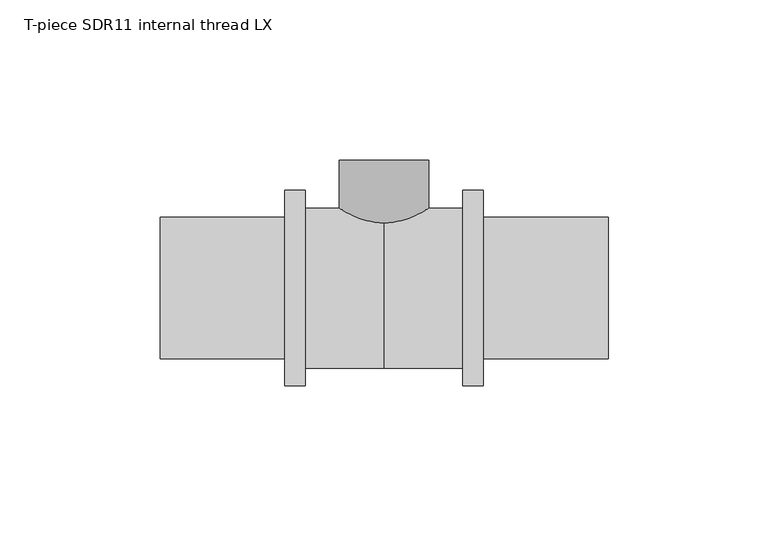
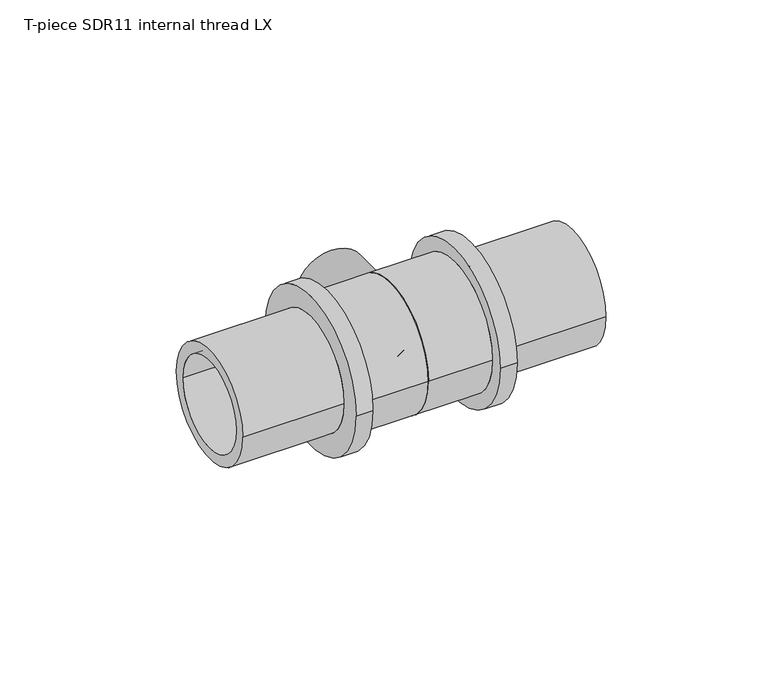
"""IFC4 building model written with IfcOpenShell, lengths in millimetres: pipe fitting geometry, T-piece SDR11 internal thread LX : T-piece LX SDR11 internal LX."""

import ifcopenshell
import ifcopenshell.guid

model = None  # the IFC model being written
_history = None  # IfcOwnerHistory: only IFC2X3 demands one
_inside = {}  # id of a spatial element -> (the spatial element, [elements in it])
_under = {}  # id of a project, library or spatial element -> (it, [spatial elements below it])
_declared = {}  # id of a project -> (the project, [libraries it declares])
_typed = {}  # id of a type object -> (the type object, [elements of that type])
_made_of = {}  # id of a material, layer set ... -> (it, [elements and type objects made of it])


def new_model(schema):
    """Start an empty IFC model of exactly this schema.

    Asked for "IFC4X3", IfcOpenShell would pick the latest addendum, in which some entities
    have other attributes; the version numbers below select the first issue.
    IFC2X3 requires an IfcOwnerHistory on every rooted entity: one is made here for all.
    """
    global model, _history
    if schema == "IFC4X3":
        model = ifcopenshell.file(schema_version=(4, 3, 0, 0))
    else:
        model = ifcopenshell.file(schema=schema)
    _inside.clear()
    _under.clear()
    _declared.clear()
    _typed.clear()
    _made_of.clear()
    _history = None
    if model.schema == "IFC2X3":
        org = make("IfcOrganization", Name="unknown")
        user = make(
            "IfcPersonAndOrganization",
            ThePerson=make("IfcPerson", FamilyName="unknown"),
            TheOrganization=org,
        )
        app = make(
            "IfcApplication",
            ApplicationDeveloper=org,
            Version="unknown",
            ApplicationFullName="unknown",
            ApplicationIdentifier="unknown",
        )
        _history = make(
            "IfcOwnerHistory",
            OwningUser=user,
            OwningApplication=app,
            ChangeAction="ADDED",
            CreationDate=0,
        )
    return model


def make(cls, **values):
    """One entity of the class cls with the attributes given. An attribute that is None is left unset."""
    return model.create_entity(
        cls, **{name: value for name, value in values.items() if value is not None}
    )


def rooted(cls, **values):
    """An entity with a GlobalId (a new one), such as an element, a storey or a relation."""
    return make(cls, GlobalId=ifcopenshell.guid.new(), OwnerHistory=_history, **values)


def si_unit(unit_type, name, prefix=None):
    """IfcSIUnit, for example si_unit("LENGTHUNIT", "METRE", prefix="MILLI")."""
    return make("IfcSIUnit", UnitType=unit_type, Prefix=prefix, Name=name)


def assignment(units):
    """IfcUnitAssignment: the units of a project."""
    return None if units is None else make("IfcUnitAssignment", Units=units)


def point(xyz):
    """IfcCartesianPoint."""
    return None if xyz is None else make("IfcCartesianPoint", Coordinates=xyz)


def direction(xyz):
    """IfcDirection."""
    return None if xyz is None else make("IfcDirection", DirectionRatios=xyz)


def frame(location, z_axis=None, x_axis=None):
    """IfcAxis2Placement3D, a coordinate frame: its origin and axes. An axis left out is left unset."""
    return make(
        "IfcAxis2Placement3D",
        Location=point(location),
        Axis=direction(z_axis),
        RefDirection=direction(x_axis),
    )


def origin():
    """The frame at (0, 0, 0) with its axes left unset."""
    return frame((0.0, 0.0, 0.0))


def place(relative_to, where):
    """IfcLocalPlacement: puts the frame where relative to a parent placement (None: the world)."""
    return make(
        "IfcLocalPlacement", PlacementRelTo=relative_to, RelativePlacement=where
    )


def context(
    kind, dimensions, precision=None, world=None, true_north=None, identifier=None
):
    """IfcGeometricRepresentationContext, for example the 3D "Model" context."""
    return make(
        "IfcGeometricRepresentationContext",
        ContextIdentifier=identifier,
        ContextType=kind,
        CoordinateSpaceDimension=dimensions,
        Precision=precision,
        WorldCoordinateSystem=world,
        TrueNorth=true_north,
    )


def project(units=None, contexts=None):
    """IfcProject with its units and contexts."""
    return rooted(
        "IfcProject",
        Name="project",
        RepresentationContexts=contexts,
        UnitsInContext=assignment(units),
    )


def spatial(cls, under=None, at=None, **own):
    """A site, building, storey or space (cls), placed at a placement, below another one or the project."""
    s = rooted(cls, ObjectPlacement=at, **own)
    if under is not None:
        _under.setdefault(under.id(), (under, []))[1].append(s)
    return s


def polyline(points):
    """IfcPolyline through the points."""
    return make("IfcPolyline", Points=[point(p) for p in points])


def circle_curve(where, radius):
    """IfcCircle in the frame where."""
    return make("IfcCircle", Position=where, Radius=radius)


def ellipse_curve(where, semi_axis1, semi_axis2):
    """IfcEllipse in the frame where."""
    return make(
        "IfcEllipse", Position=where, SemiAxis1=semi_axis1, SemiAxis2=semi_axis2
    )


def trimmed(basis, trim1, trim2, sense, master):
    """IfcTrimmedCurve: the piece of a basis curve between two trims."""
    return make(
        "IfcTrimmedCurve",
        BasisCurve=basis,
        Trim1=trim1,
        Trim2=trim2,
        SenseAgreement=sense,
        MasterRepresentation=master,
    )


def shape(context_of_items, identifier, shape_type, items):
    """IfcShapeRepresentation: the items that make up one representation, for example the "Body"."""
    return make(
        "IfcShapeRepresentation",
        ContextOfItems=context_of_items,
        RepresentationIdentifier=identifier,
        RepresentationType=shape_type,
        Items=items,
    )


def source(mapping_origin, context_of_items, identifier, shape_type, items):
    """IfcRepresentationMap: a shape defined once, which mapped items show again and again."""
    return make(
        "IfcRepresentationMap",
        MappingOrigin=mapping_origin,
        MappedRepresentation=shape(context_of_items, identifier, shape_type, items),
    )


def transform(
    local_origin,
    x_axis=None,
    y_axis=None,
    z_axis=None,
    scale=None,
    scale2=None,
    scale3=None,
    uniform=True,
):
    """IfcCartesianTransformationOperator3D, or its non-uniform kind. x_axis, y_axis, z_axis: its Axis1, 2, 3."""
    if uniform:
        return make(
            "IfcCartesianTransformationOperator3D",
            Axis1=direction(x_axis),
            Axis2=direction(y_axis),
            LocalOrigin=point(local_origin),
            Scale=scale,
            Axis3=direction(z_axis),
        )
    return make(
        "IfcCartesianTransformationOperator3DnonUniform",
        Axis1=direction(x_axis),
        Axis2=direction(y_axis),
        LocalOrigin=point(local_origin),
        Scale=scale,
        Axis3=direction(z_axis),
        Scale2=scale2,
        Scale3=scale3,
    )


def mapped(mapping_source, mapping_target):
    """IfcMappedItem: shows the shape of a source again, moved by a transform."""
    return make(
        "IfcMappedItem", MappingSource=mapping_source, MappingTarget=mapping_target
    )


def made_of(thing, what):
    """Note that an element or type object is made of a material, layer set ...; save() writes the relation."""
    if what is not None:
        _made_of.setdefault(what.id(), (what, []))[1].append(thing)
    return thing


def element(
    cls,
    number,
    at=None,
    inside=None,
    cuts=None,
    type_object=None,
    material=None,
    context=None,
    identifier="Body",
    shape_type=None,
    held_by="IfcProductDefinitionShape",
    body=None,
    shapes=None,
    **own,
):
    """One element of the class cls, such as IfcWall. Its Tag is "e" and its number.

    at: its placement. inside: the storey or other place that contains it. cuts: it is an
    opening in that element (IfcRelVoidsElement). A single representation is given by context,
    identifier, shape_type and body (its items); several are given by shapes. held_by: the class
    of the entity that holds the representations. save() writes the other relations.
    """
    e = rooted(cls, Tag="e%d" % number, ObjectPlacement=at, **own)
    if body is not None:
        shapes = [shape(context, identifier, shape_type, body)]
    if shapes is not None:
        e.Representation = make(held_by, Representations=shapes)
    if inside is not None:
        _inside.setdefault(inside.id(), (inside, []))[1].append(e)
    if cuts is not None:
        rooted(
            "IfcRelVoidsElement", RelatingBuildingElement=cuts, RelatedOpeningElement=e
        )
    if type_object is not None:
        _typed.setdefault(type_object.id(), (type_object, []))[1].append(e)
    return made_of(e, material)


def aggregate(whole, parts):
    """IfcRelAggregates: a whole, such as a stair, and the parts it consists of."""
    return rooted("IfcRelAggregates", RelatingObject=whole, RelatedObjects=parts)


def save(model, path):
    """Write the relations noted so far, then the file.

    IfcRelAggregates (storeys below a building ...), IfcRelContainedInSpatialStructure (elements
    in a storey), IfcRelDefinesByType, IfcRelAssociatesMaterial and IfcRelDeclares: one each for
    every whole, place, type object, material and project.
    """
    for whole, parts in _under.values():
        aggregate(whole, parts)
    for where, things in _inside.values():
        rooted(
            "IfcRelContainedInSpatialStructure",
            RelatedElements=things,
            RelatingStructure=where,
        )
    for kind, things in _typed.values():
        rooted("IfcRelDefinesByType", RelatedObjects=things, RelatingType=kind)
    for what, things in _made_of.values():
        rooted("IfcRelAssociatesMaterial", RelatedObjects=things, RelatingMaterial=what)
    for by, libraries in _declared.values():
        rooted("IfcRelDeclares", RelatingContext=by, RelatedDefinitions=libraries)
    model.write(path)


def plane_surface(at):
    """IfcPlane: the flat surface through the origin of the frame at, square to its z axis."""
    return make("IfcPlane", Position=at)


def cylinder_surface(at, radius):
    """IfcCylindricalSurface: all points at the distance radius from the z axis of the frame at."""
    return make("IfcCylindricalSurface", Position=at, Radius=radius)


def revolved_surface(curve, axis_point, axis_direction):
    """IfcSurfaceOfRevolution: the curve turned about the line through axis_point along axis_direction."""
    return make(
        "IfcSurfaceOfRevolution",
        SweptCurve=make("IfcArbitraryOpenProfileDef", ProfileType="CURVE", Curve=curve),
        AxisPosition=make("IfcAxis1Placement", Location=point(axis_point), Axis=direction(axis_direction)),
    )


def advanced_brep(points, edges, surfaces, faces):
    """IfcAdvancedBrep: a solid bounded by faces that lie on surfaces and meet in shared edges.

    An edge is (start, end): straight between two places in points (the first is 0);
    or (start, end, curve); or (start, end, curve, False) where it runs against its curve.
    A face is (place in surfaces, loops), or (place, loops, False) where it looks against
    its surface's normal. A loop lists edges by number (the first is 1), with a minus sign
    where the edge is run from its end to its start. The first loop is the outer one.
    """
    corners = [point(p) for p in points]
    vertices = [make("IfcVertexPoint", VertexGeometry=c) for c in corners]
    made = []
    for start, end, *more in edges:
        made.append(
            make(
                "IfcEdgeCurve",
                EdgeStart=vertices[start],
                EdgeEnd=vertices[end],
                EdgeGeometry=more[0] if more else make("IfcPolyline", Points=[corners[start], corners[end]]),
                SameSense=more[1] if len(more) > 1 else True,
            )
        )
    hull = []
    for where, loops, *sense in faces:
        bounds = []
        for j, loop in enumerate(loops):
            ring = [make("IfcOrientedEdge", EdgeElement=made[abs(k) - 1], Orientation=k > 0) for k in loop]
            bounds.append(
                make(
                    "IfcFaceOuterBound" if j == 0 else "IfcFaceBound",
                    Bound=make("IfcEdgeLoop", EdgeList=ring),
                    Orientation=True,
                )
            )
        hull.append(make("IfcAdvancedFace", Bounds=bounds, FaceSurface=surfaces[where], SameSense=sense[0] if sense else True))
    return make("IfcAdvancedBrep", Outer=make("IfcClosedShell", CfsFaces=hull))


def t_piece_sdr11_internal_thread_lx_bc42c6c6(model_context):
    return source(origin(), model_context, "Body", "AdvancedBrep", [
        advanced_brep(
        [(9.85, 9.35, 0.0), (-9.85, 9.35, 0.0), (-9.85, 40.0, 0.0), (9.85, 40.0, 0.0), (0.5, 0.0, 0.0), (-0.5, 0.0, 0.0), (13.2683856, 6.8993993, 0.0), (-13.2683856, 6.8993993, 0.0), (-6.3689863, 0.0, 0.0), (6.3689863, 0.0, 0.0), (14.0, 8.6656727, 0.0), (-14.0, 8.6656727, 0.0), (14.0, 40.0, 0.0), (-14.0, 40.0, 0.0)],
        [
            (0, 1, circle_curve(frame((0.0, 9.35, 0.0), z_axis=(0.0, -1.0, 0.0), x_axis=(-1.0, 0.0, 0.0)), 9.85)),
            (1, 2),
            (2, 3, circle_curve(frame((0.0, 40.0, 0.0), z_axis=(0.0, 1.0, 0.0), x_axis=(-1.0, 0.0, 0.0)), 9.85)),
            (3, 0),
            (4, 5, circle_curve(frame((0.0, 0.0, 0.0), z_axis=(0.0, -1.0, 0.0), x_axis=(-1.0, 0.0, 0.0)), 0.5)),
            (5, 1),
            (0, 4),
            (6, 7, circle_curve(frame((0.0, 6.8993993, 0.0), z_axis=(0.0, -1.0, 0.0), x_axis=(-1.0, 0.0, 0.0)), 13.2683856)),
            (7, 8),
            (8, 9, circle_curve(frame((0.0, 0.0, 0.0), z_axis=(0.0, 1.0, 0.0), x_axis=(-1.0, 0.0, 0.0)), 6.3689863)),
            (9, 6),
            (10, 11, circle_curve(frame((0.0, 8.6656727, 0.0), z_axis=(0.0, -1.0, 0.0), x_axis=(-1.0, 0.0, 0.0)), 14.0)),
            (11, 7, circle_curve(frame((-9.85, 9.35, 0.0), z_axis=(0.0, 0.0, 1.0), x_axis=(0.0, 1.0, 0.0)), 4.2060437)),
            (6, 10, circle_curve(frame((9.85, 9.35, 0.0), z_axis=(0.0, 0.0, 1.0), x_axis=(0.0, 1.0, 0.0)), 4.2060437)),
            (12, 13, circle_curve(frame((0.0, 40.0, 0.0), z_axis=(0.0, -1.0, 0.0), x_axis=(-1.0, 0.0, 0.0)), 14.0)),
            (13, 11),
            (10, 12),
            (12, 13, circle_curve(frame((0.0, 40.0, 0.0), z_axis=(0.0, 1.0, 0.0), x_axis=(1.0, 0.0, 0.0)), 14.0)),
            (2, 3, circle_curve(frame((0.0, 40.0, 0.0), z_axis=(0.0, -1.0, 0.0), x_axis=(1.0, 0.0, 0.0)), 9.85)),
            (1, 0, circle_curve(frame((0.0, 9.35, 0.0), z_axis=(0.0, -1.0, 0.0), x_axis=(1.0, 0.0, 0.0)), 9.85)),
            (5, 4, circle_curve(frame((0.0, 0.0, 0.0), z_axis=(0.0, -1.0, 0.0), x_axis=(1.0, 0.0, 0.0)), 0.5)),
            (8, 9, circle_curve(frame((0.0, 0.0, 0.0), z_axis=(0.0, -1.0, 0.0), x_axis=(1.0, 0.0, 0.0)), 6.3689863)),
            (7, 6, circle_curve(frame((0.0, 6.8993993, 0.0), z_axis=(0.0, -1.0, 0.0), x_axis=(1.0, 0.0, 0.0)), 13.2683856)),
            (11, 10, circle_curve(frame((0.0, 8.6656727, 0.0), z_axis=(0.0, -1.0, 0.0), x_axis=(1.0, 0.0, 0.0)), 14.0)),
        ],
        [
            revolved_surface(polyline([(-9.85, 40.0, 0.0), (-9.85, 9.35, 0.0)]), (0.0, 0.0, 0.0), (0.0, 1.0, 0.0)),
            revolved_surface(polyline([(-9.85, 9.35, 0.0), (-0.5, 0.0, 0.0)]), (0.0, 0.0, 0.0), (0.0, 1.0, 0.0)),
            revolved_surface(polyline([(-6.3689863, 0.0, 0.0), (-13.2683856, 6.8993993, 0.0)]), (0.0, 0.0, 0.0), (0.0, 1.0, 0.0)),
            revolved_surface(trimmed(ellipse_curve(frame((-9.85, 9.35, 0.0), z_axis=(0.0, 0.0, -1.0), x_axis=(0.0, 1.0, 0.0)), 4.2060437, 4.2060437), [point((-13.2683856, 6.8993993, 0.0))], [point((-14.0, 8.6656727, 0.0))], True, "CARTESIAN"), (0.0, 0.0, 0.0), (0.0, 1.0, 0.0)),
            cylinder_surface(frame((0.0, 0.0, 0.0), z_axis=(0.0, 1.0, 0.0), x_axis=(-1.0, 0.0, 0.0)), 14.0),
            plane_surface(frame((0.0, 40.0, 0.0), z_axis=(0.0, 1.0, 0.0), x_axis=(1.0, 0.0, 0.0))),
            revolved_surface(polyline([(9.85, 40.0, 0.0), (9.85, 9.35, 0.0)]), (0.0, 0.0, 0.0), (0.0, 1.0, 0.0)),
            revolved_surface(polyline([(9.85, 9.35, 0.0), (0.5, 0.0, 0.0)]), (0.0, 0.0, 0.0), (0.0, 1.0, 0.0)),
            plane_surface(frame((0.0, 0.0, 0.0), z_axis=(0.0, -1.0, 0.0), x_axis=(1.0, 0.0, 0.0))),
            revolved_surface(polyline([(6.3689863, 0.0, 0.0), (13.2683856, 6.8993993, 0.0)]), (0.0, 0.0, 0.0), (0.0, 1.0, 0.0)),
            revolved_surface(trimmed(ellipse_curve(frame((9.85, 9.35, 0.0), z_axis=(0.0, 0.0, 1.0), x_axis=(0.0, 1.0, 0.0)), 4.2060437, 4.2060437), [point((13.2683856, 6.8993993, 0.0))], [point((14.0, 8.6656727, 0.0))], True, "CARTESIAN"), (0.0, 0.0, 0.0), (0.0, 1.0, 0.0)),
            cylinder_surface(frame((0.0, 0.0, 0.0), z_axis=(0.0, 1.0, 0.0), x_axis=(1.0, 0.0, 0.0)), 14.0),
        ],
        [
            (0, [[1, 2, 3, 4]]),
            (1, [[5, 6, -1, 7]]),
            (2, [[8, 9, 10, 11]]),
            (3, [[12, 13, -8, 14]]),
            (4, [[15, 16, -12, 17]]),
            (5, [[18, -15], [19, -3]]),
            (6, [[20, -4, -19, -2]]),
            (7, [[21, -7, -20, -6]]),
            (8, [[22, -10], [-21, -5]]),
            (9, [[23, -11, -22, -9]]),
            (10, [[24, -14, -23, -13]]),
            (11, [[-18, -17, -24, -16]]),
        ],
    ),
        advanced_brep(
        [(31.0, 30.5, 0.0), (31.0, -30.5, 0.0), (24.6, -30.5, 0.0), (24.6, 30.5, 0.0), (70.0, 22.15, 0.0), (70.0, -22.15, 0.0), (31.0, -22.15, 0.0), (31.0, 22.15, 0.0), (0.0, 17.75, 0.0), (0.0, -17.75, 0.0), (70.0, -17.75, 0.0), (70.0, 17.75, 0.0), (24.6, 25.0, 0.0), (24.6, -25.0, 0.0), (0.0, -25.0, 0.0), (0.0, 25.0, 0.0)],
        [
            (0, 1, circle_curve(frame((31.0, 0.0, 0.0), z_axis=(-1.0, 0.0, 0.0), x_axis=(0.0, -1.0, 0.0)), 30.5)),
            (1, 2),
            (2, 3, circle_curve(frame((24.6, 0.0, 0.0), z_axis=(1.0, 0.0, 0.0), x_axis=(0.0, -1.0, 0.0)), 30.5)),
            (3, 0),
            (4, 5, circle_curve(frame((70.0, 0.0, 0.0), z_axis=(-1.0, 0.0, 0.0), x_axis=(0.0, -1.0, 0.0)), 22.15)),
            (5, 6),
            (6, 7, circle_curve(frame((31.0, 0.0, 0.0), z_axis=(1.0, 0.0, 0.0), x_axis=(0.0, -1.0, 0.0)), 22.15)),
            (7, 4),
            (8, 9, circle_curve(frame((0.0, 0.0, 0.0), z_axis=(-1.0, 0.0, 0.0), x_axis=(0.0, -1.0, 0.0)), 17.75)),
            (9, 10),
            (10, 11, circle_curve(frame((70.0, 0.0, 0.0), z_axis=(1.0, 0.0, 0.0), x_axis=(0.0, -1.0, 0.0)), 17.75)),
            (11, 8),
            (12, 13, circle_curve(frame((24.6, 0.0, 0.0), z_axis=(-1.0, 0.0, 0.0), x_axis=(0.0, -1.0, 0.0)), 25.0)),
            (13, 14),
            (14, 15, circle_curve(frame((0.0, 0.0, 0.0), z_axis=(1.0, 0.0, 0.0), x_axis=(0.0, -1.0, 0.0)), 25.0)),
            (15, 12),
            (1, 0, circle_curve(frame((31.0, 0.0, 0.0), z_axis=(-1.0, 0.0, 0.0), x_axis=(0.0, 1.0, 0.0)), 30.5)),
            (3, 2, circle_curve(frame((24.6, 0.0, 0.0), z_axis=(1.0, 0.0, 0.0), x_axis=(0.0, 1.0, 0.0)), 30.5)),
            (6, 7, circle_curve(frame((31.0, 0.0, 0.0), z_axis=(-1.0, 0.0, 0.0), x_axis=(0.0, 1.0, 0.0)), 22.15)),
            (5, 4, circle_curve(frame((70.0, 0.0, 0.0), z_axis=(-1.0, 0.0, 0.0), x_axis=(0.0, 1.0, 0.0)), 22.15)),
            (10, 11, circle_curve(frame((70.0, 0.0, 0.0), z_axis=(-1.0, 0.0, 0.0), x_axis=(0.0, 1.0, 0.0)), 17.75)),
            (9, 8, circle_curve(frame((0.0, 0.0, 0.0), z_axis=(-1.0, 0.0, 0.0), x_axis=(0.0, 1.0, 0.0)), 17.75)),
            (14, 15, circle_curve(frame((0.0, 0.0, 0.0), z_axis=(-1.0, 0.0, 0.0), x_axis=(0.0, 1.0, 0.0)), 25.0)),
            (13, 12, circle_curve(frame((24.6, 0.0, 0.0), z_axis=(-1.0, 0.0, 0.0), x_axis=(0.0, 1.0, 0.0)), 25.0)),
        ],
        [
            cylinder_surface(frame((0.0, 0.0, 0.0), z_axis=(1.0, 0.0, 0.0), x_axis=(0.0, -1.0, 0.0)), 30.5),
            cylinder_surface(frame((0.0, 0.0, 0.0), z_axis=(1.0, 0.0, 0.0), x_axis=(0.0, -1.0, 0.0)), 22.15),
            revolved_surface(polyline([(70.0, -17.75, 0.0), (0.0, -17.75, 0.0)]), (0.0, 0.0, 0.0), (1.0, 0.0, 0.0)),
            cylinder_surface(frame((0.0, 0.0, 0.0), z_axis=(1.0, 0.0, 0.0), x_axis=(0.0, -1.0, 0.0)), 25.0),
            cylinder_surface(frame((0.0, 0.0, 0.0), z_axis=(1.0, 0.0, 0.0), x_axis=(0.0, 1.0, 0.0)), 30.5),
            plane_surface(frame((31.0, 0.0, 0.0), z_axis=(1.0, 0.0, 0.0), x_axis=(0.0, 1.0, 0.0))),
            cylinder_surface(frame((0.0, 0.0, 0.0), z_axis=(1.0, 0.0, 0.0), x_axis=(0.0, 1.0, 0.0)), 22.15),
            plane_surface(frame((70.0, 0.0, 0.0), z_axis=(1.0, 0.0, 0.0), x_axis=(0.0, 1.0, 0.0))),
            revolved_surface(polyline([(70.0, 17.75, 0.0), (0.0, 17.75, 0.0)]), (0.0, 0.0, 0.0), (1.0, 0.0, 0.0)),
            plane_surface(frame((0.0, 0.0, 0.0), z_axis=(-1.0, 0.0, 0.0), x_axis=(0.0, 1.0, 0.0))),
            cylinder_surface(frame((0.0, 0.0, 0.0), z_axis=(1.0, 0.0, 0.0), x_axis=(0.0, 1.0, 0.0)), 25.0),
            plane_surface(frame((24.6, 0.0, 0.0), z_axis=(-1.0, 0.0, 0.0), x_axis=(0.0, 1.0, 0.0))),
        ],
        [
            (0, [[1, 2, 3, 4]]),
            (1, [[5, 6, 7, 8]]),
            (2, [[9, 10, 11, 12]]),
            (3, [[13, 14, 15, 16]]),
            (4, [[17, -4, 18, -2]]),
            (5, [[-17, -1], [19, -7]]),
            (6, [[20, -8, -19, -6]]),
            (7, [[-20, -5], [21, -11]]),
            (8, [[22, -12, -21, -10]]),
            (9, [[23, -15], [-22, -9]]),
            (10, [[24, -16, -23, -14]]),
            (11, [[-18, -3], [-24, -13]]),
        ],
    ),
        advanced_brep(
        [(0.0, 25.0, 0.0), (0.0, -25.0, 0.0), (-24.6, -25.0, 0.0), (-24.6, 25.0, 0.0), (-70.0, 17.75, 0.0), (-70.0, -17.75, 0.0), (0.0, -17.75, 0.0), (0.0, 17.75, 0.0), (-31.0, 22.15, 0.0), (-31.0, -22.15, 0.0), (-70.0, -22.15, 0.0), (-70.0, 22.15, 0.0), (-24.6, 30.5, 0.0), (-24.6, -30.5, 0.0), (-31.0, -30.5, 0.0), (-31.0, 30.5, 0.0)],
        [
            (0, 1, circle_curve(frame((0.0, 0.0, 0.0), z_axis=(-1.0, 0.0, 0.0), x_axis=(0.0, -1.0, 0.0)), 25.0)),
            (1, 2),
            (2, 3, circle_curve(frame((-24.6, 0.0, 0.0), z_axis=(1.0, 0.0, 0.0), x_axis=(0.0, -1.0, 0.0)), 25.0)),
            (3, 0),
            (4, 5, circle_curve(frame((-70.0, 0.0, 0.0), z_axis=(-1.0, 0.0, 0.0), x_axis=(0.0, -1.0, 0.0)), 17.75)),
            (5, 6),
            (6, 7, circle_curve(frame((0.0, 0.0, 0.0), z_axis=(1.0, 0.0, 0.0), x_axis=(0.0, -1.0, 0.0)), 17.75)),
            (7, 4),
            (8, 9, circle_curve(frame((-31.0, 0.0, 0.0), z_axis=(-1.0, 0.0, 0.0), x_axis=(0.0, -1.0, 0.0)), 22.15)),
            (9, 10),
            (10, 11, circle_curve(frame((-70.0, 0.0, 0.0), z_axis=(1.0, 0.0, 0.0), x_axis=(0.0, -1.0, 0.0)), 22.15)),
            (11, 8),
            (12, 13, circle_curve(frame((-24.6, 0.0, 0.0), z_axis=(-1.0, 0.0, 0.0), x_axis=(0.0, -1.0, 0.0)), 30.5)),
            (13, 14),
            (14, 15, circle_curve(frame((-31.0, 0.0, 0.0), z_axis=(1.0, 0.0, 0.0), x_axis=(0.0, -1.0, 0.0)), 30.5)),
            (15, 12),
            (12, 13, circle_curve(frame((-24.6, 0.0, 0.0), z_axis=(1.0, 0.0, 0.0), x_axis=(0.0, 1.0, 0.0)), 30.5)),
            (2, 3, circle_curve(frame((-24.6, 0.0, 0.0), z_axis=(-1.0, 0.0, 0.0), x_axis=(0.0, 1.0, 0.0)), 25.0)),
            (1, 0, circle_curve(frame((0.0, 0.0, 0.0), z_axis=(-1.0, 0.0, 0.0), x_axis=(0.0, 1.0, 0.0)), 25.0)),
            (6, 7, circle_curve(frame((0.0, 0.0, 0.0), z_axis=(-1.0, 0.0, 0.0), x_axis=(0.0, 1.0, 0.0)), 17.75)),
            (5, 4, circle_curve(frame((-70.0, 0.0, 0.0), z_axis=(-1.0, 0.0, 0.0), x_axis=(0.0, 1.0, 0.0)), 17.75)),
            (10, 11, circle_curve(frame((-70.0, 0.0, 0.0), z_axis=(-1.0, 0.0, 0.0), x_axis=(0.0, 1.0, 0.0)), 22.15)),
            (9, 8, circle_curve(frame((-31.0, 0.0, 0.0), z_axis=(-1.0, 0.0, 0.0), x_axis=(0.0, 1.0, 0.0)), 22.15)),
            (14, 15, circle_curve(frame((-31.0, 0.0, 0.0), z_axis=(-1.0, 0.0, 0.0), x_axis=(0.0, 1.0, 0.0)), 30.5)),
        ],
        [
            cylinder_surface(frame((0.0, 0.0, 0.0), z_axis=(1.0, 0.0, 0.0), x_axis=(0.0, -1.0, 0.0)), 25.0),
            revolved_surface(polyline([(0.0, -17.75, 0.0), (-70.0, -17.75, 0.0)]), (0.0, 0.0, 0.0), (1.0, 0.0, 0.0)),
            cylinder_surface(frame((0.0, 0.0, 0.0), z_axis=(1.0, 0.0, 0.0), x_axis=(0.0, -1.0, 0.0)), 22.15),
            cylinder_surface(frame((0.0, 0.0, 0.0), z_axis=(1.0, 0.0, 0.0), x_axis=(0.0, -1.0, 0.0)), 30.5),
            plane_surface(frame((-24.6, 0.0, 0.0), z_axis=(1.0, 0.0, 0.0), x_axis=(0.0, 1.0, 0.0))),
            cylinder_surface(frame((0.0, 0.0, 0.0), z_axis=(1.0, 0.0, 0.0), x_axis=(0.0, 1.0, 0.0)), 25.0),
            plane_surface(frame((0.0, 0.0, 0.0), z_axis=(1.0, 0.0, 0.0), x_axis=(0.0, 1.0, 0.0))),
            revolved_surface(polyline([(0.0, 17.75, 0.0), (-70.0, 17.75, 0.0)]), (0.0, 0.0, 0.0), (1.0, 0.0, 0.0)),
            plane_surface(frame((-70.0, 0.0, 0.0), z_axis=(-1.0, 0.0, 0.0), x_axis=(0.0, 1.0, 0.0))),
            cylinder_surface(frame((0.0, 0.0, 0.0), z_axis=(1.0, 0.0, 0.0), x_axis=(0.0, 1.0, 0.0)), 22.15),
            plane_surface(frame((-31.0, 0.0, 0.0), z_axis=(-1.0, 0.0, 0.0), x_axis=(0.0, 1.0, 0.0))),
            cylinder_surface(frame((0.0, 0.0, 0.0), z_axis=(1.0, 0.0, 0.0), x_axis=(0.0, 1.0, 0.0)), 30.5),
        ],
        [
            (0, [[1, 2, 3, 4]]),
            (1, [[5, 6, 7, 8]]),
            (2, [[9, 10, 11, 12]]),
            (3, [[13, 14, 15, 16]]),
            (4, [[17, -13], [18, -3]]),
            (5, [[19, -4, -18, -2]]),
            (6, [[-19, -1], [20, -7]]),
            (7, [[21, -8, -20, -6]]),
            (8, [[22, -11], [-21, -5]]),
            (9, [[23, -12, -22, -10]]),
            (10, [[24, -15], [-23, -9]]),
            (11, [[-17, -16, -24, -14]]),
        ],
    ),
    ])


if __name__ == "__main__":
    model = new_model("IFC4")
    model_context = context("Model", 3, world=origin())
    ifc_project = project(units=[si_unit("LENGTHUNIT", "METRE", prefix="MILLI")], contexts=[model_context])
    site = spatial("IfcSite", under=ifc_project)
    building = spatial("IfcBuilding", under=site)
    placement = place(None, origin())
    t_piece_sdr11_internal_thread_lx_shape = t_piece_sdr11_internal_thread_lx_bc42c6c6(model_context)
    element("IfcPipeFitting", 1, ObjectType="T-piece SDR11 internal thread LX : T-piece LX SDR11 internal LX", at=placement, inside=building, context=model_context, shape_type="MappedRepresentation", body=[
        mapped(t_piece_sdr11_internal_thread_lx_shape, transform((0.0, 0.0, 0.0), x_axis=(1.0, 0.0, 0.0), y_axis=(0.0, 1.0, 0.0), z_axis=(0.0, 0.0, 1.0))),
    ])
    save(model, "model.ifc")
